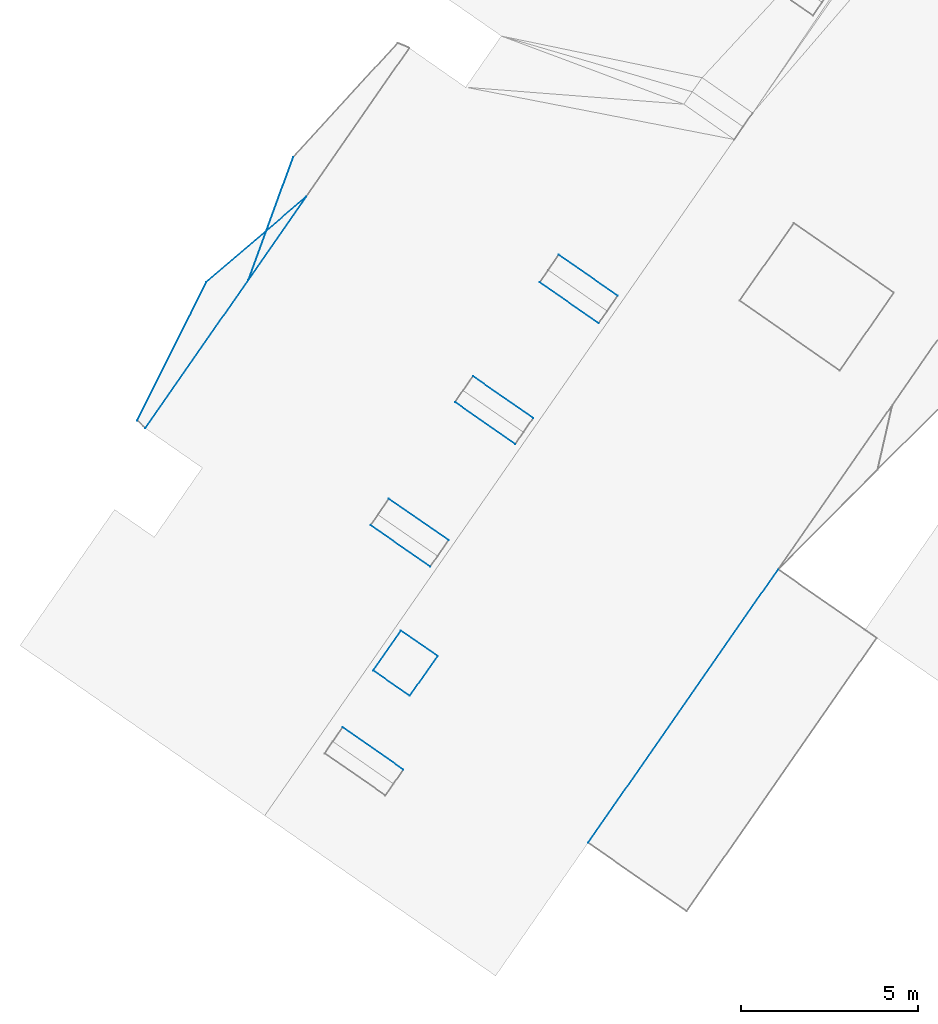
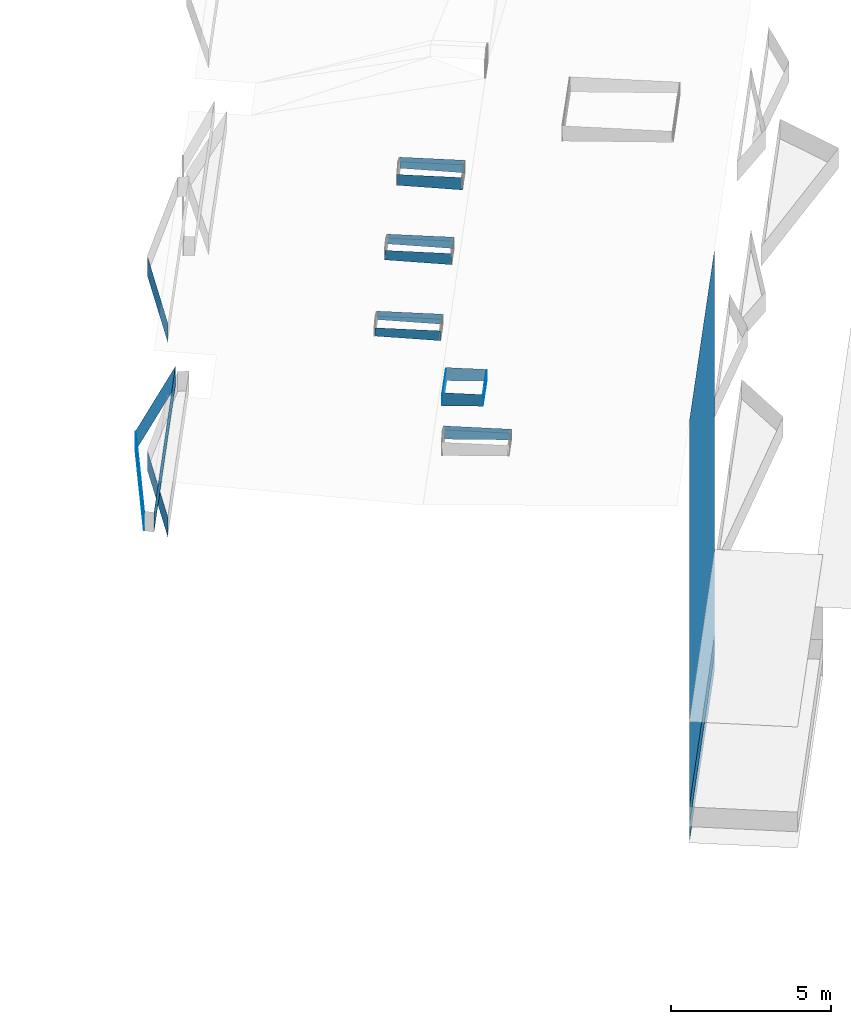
# Not in any storey, part 38 of 136: 24 walls.
"""IFC4 building model written with IfcOpenShell, lengths in metres."""

import ifcopenshell
import ifcopenshell.guid

model = None  # the IFC model being written
_history = None  # IfcOwnerHistory: only IFC2X3 demands one
_inside = {}  # id of a spatial element -> (the spatial element, [elements in it])
_under = {}  # id of a project, library or spatial element -> (it, [spatial elements below it])
_declared = {}  # id of a project -> (the project, [libraries it declares])
_typed = {}  # id of a type object -> (the type object, [elements of that type])
_made_of = {}  # id of a material, layer set ... -> (it, [elements and type objects made of it])


def new_model(schema):
    """Start an empty IFC model of exactly this schema.

    Asked for "IFC4X3", IfcOpenShell would pick the latest addendum, in which some entities
    have other attributes; the version numbers below select the first issue.
    IFC2X3 requires an IfcOwnerHistory on every rooted entity: one is made here for all.
    """
    global model, _history
    if schema == "IFC4X3":
        model = ifcopenshell.file(schema_version=(4, 3, 0, 0))
    else:
        model = ifcopenshell.file(schema=schema)
    _inside.clear()
    _under.clear()
    _declared.clear()
    _typed.clear()
    _made_of.clear()
    _history = None
    if model.schema == "IFC2X3":
        org = make("IfcOrganization", Name="unknown")
        user = make(
            "IfcPersonAndOrganization",
            ThePerson=make("IfcPerson", FamilyName="unknown"),
            TheOrganization=org,
        )
        app = make(
            "IfcApplication",
            ApplicationDeveloper=org,
            Version="unknown",
            ApplicationFullName="unknown",
            ApplicationIdentifier="unknown",
        )
        _history = make(
            "IfcOwnerHistory",
            OwningUser=user,
            OwningApplication=app,
            ChangeAction="ADDED",
            CreationDate=0,
        )
    return model


def make(cls, **values):
    """One entity of the class cls with the attributes given. An attribute that is None is left unset."""
    return model.create_entity(
        cls, **{name: value for name, value in values.items() if value is not None}
    )


def entity(cls, *values):
    """Any entity or typed value of the class cls, its attributes in the order of the schema. None: left unset."""
    e = model.create_entity(cls)
    for i, value in enumerate(values):
        if value is not None:
            e[i] = value
    return e


def rooted(cls, **values):
    """An entity with a GlobalId (a new one), such as an element, a storey or a relation."""
    return make(cls, GlobalId=ifcopenshell.guid.new(), OwnerHistory=_history, **values)


def si_unit(unit_type, name, prefix=None):
    """IfcSIUnit, for example si_unit("LENGTHUNIT", "METRE", prefix="MILLI")."""
    return make("IfcSIUnit", UnitType=unit_type, Prefix=prefix, Name=name)


def converted_unit(unit_type, name, factor, base, dimensions=None, offset=None):
    """IfcConversionBasedUnit, such as the inch: factor (a typed value) times the base unit."""
    return make(
        "IfcConversionBasedUnit"
        if offset is None
        else "IfcConversionBasedUnitWithOffset",
        ConversionOffset=offset,
        Dimensions=None
        if dimensions is None
        else entity("IfcDimensionalExponents", *dimensions),
        UnitType=unit_type,
        Name=name,
        ConversionFactor=make(
            "IfcMeasureWithUnit", ValueComponent=factor, UnitComponent=base
        ),
    )


def assignment(units):
    """IfcUnitAssignment: the units of a project."""
    return None if units is None else make("IfcUnitAssignment", Units=units)


def point(xyz):
    """IfcCartesianPoint."""
    return None if xyz is None else make("IfcCartesianPoint", Coordinates=xyz)


def direction(xyz):
    """IfcDirection."""
    return None if xyz is None else make("IfcDirection", DirectionRatios=xyz)


def frame(location, z_axis=None, x_axis=None):
    """IfcAxis2Placement3D, a coordinate frame: its origin and axes. An axis left out is left unset."""
    return make(
        "IfcAxis2Placement3D",
        Location=point(location),
        Axis=direction(z_axis),
        RefDirection=direction(x_axis),
    )


def origin():
    """The frame at (0, 0, 0) with its axes left unset."""
    return frame((0.0, 0.0, 0.0))


def place(relative_to, where):
    """IfcLocalPlacement: puts the frame where relative to a parent placement (None: the world)."""
    return make(
        "IfcLocalPlacement", PlacementRelTo=relative_to, RelativePlacement=where
    )


def context(
    kind, dimensions, precision=None, world=None, true_north=None, identifier=None
):
    """IfcGeometricRepresentationContext, for example the 3D "Model" context."""
    return make(
        "IfcGeometricRepresentationContext",
        ContextIdentifier=identifier,
        ContextType=kind,
        CoordinateSpaceDimension=dimensions,
        Precision=precision,
        WorldCoordinateSystem=world,
        TrueNorth=true_north,
    )


def subcontext(parent, identifier, kind, view, scale=None):
    """IfcGeometricRepresentationSubContext, for example "Body" below "Model"."""
    return make(
        "IfcGeometricRepresentationSubContext",
        ContextIdentifier=identifier,
        ContextType=kind,
        ParentContext=parent,
        TargetScale=scale,
        TargetView=view,
    )


def project(units=None, contexts=None):
    """IfcProject with its units and contexts."""
    return rooted(
        "IfcProject",
        Name="project",
        RepresentationContexts=contexts,
        UnitsInContext=assignment(units),
    )


def spatial(cls, under=None, at=None, **own):
    """A site, building, storey or space (cls), placed at a placement, below another one or the project."""
    s = rooted(cls, ObjectPlacement=at, **own)
    if under is not None:
        _under.setdefault(under.id(), (under, []))[1].append(s)
    return s


def faces_of(points, faces, orient=None, outer=None):
    """IfcFace entities. A face is a list of loops; a loop is a list of indices into points, from 0.

    orient and outer hold one flag for each loop. By default every Orientation is true, the
    first loop of a face is its IfcFaceOuterBound and the others are IfcFaceBound.
    """
    made = []
    for i, loops in enumerate(faces):
        bounds = []
        for j, loop in enumerate(loops):
            is_outer = j == 0 if outer is None else outer[i][j]
            bounds.append(
                make(
                    "IfcFaceOuterBound" if is_outer else "IfcFaceBound",
                    Bound=make("IfcPolyLoop", Polygon=[points[k] for k in loop]),
                    Orientation=True if orient is None else orient[i][j],
                )
            )
        made.append(make("IfcFace", Bounds=bounds))
    return made


def face_set(faces, orient=None, outer=None):
    """The faces of one IfcConnectedFaceSet. surface_model builds it on its shared points."""
    return ("IfcConnectedFaceSet", faces, orient, outer)


def surface_model(cls, points, shells):
    """IfcFaceBasedSurfaceModel or IfcShellBasedSurfaceModel (cls): surfaces that need not close."""
    shared = [point(p) for p in points]
    made = [make(c, CfsFaces=faces_of(shared, fs, o, b)) for c, fs, o, b in shells]
    if cls == "IfcFaceBasedSurfaceModel":
        return make(cls, FbsmFaces=made)
    return make(cls, SbsmBoundary=made)


def shape(context_of_items, identifier, shape_type, items):
    """IfcShapeRepresentation: the items that make up one representation, for example the "Body"."""
    return make(
        "IfcShapeRepresentation",
        ContextOfItems=context_of_items,
        RepresentationIdentifier=identifier,
        RepresentationType=shape_type,
        Items=items,
    )


def made_of(thing, what):
    """Note that an element or type object is made of a material, layer set ...; save() writes the relation."""
    if what is not None:
        _made_of.setdefault(what.id(), (what, []))[1].append(thing)
    return thing


def element(
    cls,
    number,
    at=None,
    inside=None,
    cuts=None,
    type_object=None,
    material=None,
    context=None,
    identifier="Body",
    shape_type=None,
    held_by="IfcProductDefinitionShape",
    body=None,
    shapes=None,
    **own,
):
    """One element of the class cls, such as IfcWall. Its Tag is "e" and its number.

    at: its placement. inside: the storey or other place that contains it. cuts: it is an
    opening in that element (IfcRelVoidsElement). A single representation is given by context,
    identifier, shape_type and body (its items); several are given by shapes. held_by: the class
    of the entity that holds the representations. save() writes the other relations.
    """
    e = rooted(cls, Tag="e%d" % number, ObjectPlacement=at, **own)
    if body is not None:
        shapes = [shape(context, identifier, shape_type, body)]
    if shapes is not None:
        e.Representation = make(held_by, Representations=shapes)
    if inside is not None:
        _inside.setdefault(inside.id(), (inside, []))[1].append(e)
    if cuts is not None:
        rooted(
            "IfcRelVoidsElement", RelatingBuildingElement=cuts, RelatedOpeningElement=e
        )
    if type_object is not None:
        _typed.setdefault(type_object.id(), (type_object, []))[1].append(e)
    return made_of(e, material)


def aggregate(whole, parts):
    """IfcRelAggregates: a whole, such as a stair, and the parts it consists of."""
    return rooted("IfcRelAggregates", RelatingObject=whole, RelatedObjects=parts)


def save(model, path):
    """Write the relations noted so far, then the file.

    IfcRelAggregates (storeys below a building ...), IfcRelContainedInSpatialStructure (elements
    in a storey), IfcRelDefinesByType, IfcRelAssociatesMaterial and IfcRelDeclares: one each for
    every whole, place, type object, material and project.
    """
    for whole, parts in _under.values():
        aggregate(whole, parts)
    for where, things in _inside.values():
        rooted(
            "IfcRelContainedInSpatialStructure",
            RelatedElements=things,
            RelatingStructure=where,
        )
    for kind, things in _typed.values():
        rooted("IfcRelDefinesByType", RelatedObjects=things, RelatingType=kind)
    for what, things in _made_of.values():
        rooted("IfcRelAssociatesMaterial", RelatedObjects=things, RelatingMaterial=what)
    for by, libraries in _declared.values():
        rooted("IfcRelDeclares", RelatingContext=by, RelatedDefinitions=libraries)
    model.write(path)


model = new_model("IFC4")

# Units and contexts
model_context = context("Model", 3, precision=1e-05, world=origin())
body_context = subcontext(model_context, "Body", "Model", "MODEL_VIEW")
ifc_project = project(units=[converted_unit("PLANEANGLEUNIT", "DEGREE", entity("IfcRatioMeasure", 0.0174532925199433), si_unit("PLANEANGLEUNIT", "RADIAN"), dimensions=[0, 0, 0, 0, 0, 0, 0]), si_unit("AREAUNIT", "SQUARE_METRE"), si_unit("LENGTHUNIT", "METRE")], contexts=[model_context])

# Site, building
site_placement = place(None, origin())
site = spatial("IfcSite", under=ifc_project, at=site_placement, Name="_site")
building_placement = place(site_placement, origin())
building = spatial("IfcBuilding", under=site, at=building_placement, Name="_building")

# Walls
wall_1_placement = place(building_placement, origin())
element("IfcWall", 1, at=wall_1_placement, inside=building, Name="Wall", PredefinedType="NOTDEFINED", context=body_context, shape_type="SurfaceModel", body=[
    surface_model("IfcFaceBasedSurfaceModel", [(-44.91, 54.88, 38.44), (-39.53, 62.62, 38.44), (-39.53, 62.62, 39.19), (-44.91, 54.88, 39.19)], [face_set([[[0, 1, 2, 3]]])]),
])
wall_2_placement = place(building_placement, origin())
element("IfcWall", 2, at=wall_2_placement, inside=building, Name="Wall", PredefinedType="NOTDEFINED", context=body_context, shape_type="SurfaceModel", body=[
    surface_model("IfcFaceBasedSurfaceModel", [(-55.72, 70.76, 46.95), (-52.89, 73.18, 46.95), (-52.89, 73.18, 47.7), (-55.72, 70.76, 47.7)], [face_set([[[0, 1, 2, 3]]])]),
])
wall_3_placement = place(building_placement, origin())
element("IfcWall", 3, at=wall_3_placement, inside=building, Name="Wall", PredefinedType="NOTDEFINED", context=body_context, shape_type="SurfaceModel", body=[
    surface_model("IfcFaceBasedSurfaceModel", [(-57.68, 66.84, 46.95), (-55.72, 70.76, 46.95), (-55.72, 70.76, 47.7), (-57.68, 66.84, 47.7)], [face_set([[[0, 1, 2, 3]]])]),
])
wall_4_placement = place(building_placement, origin())
element("IfcWall", 4, at=wall_4_placement, inside=building, Name="Wall", PredefinedType="NOTDEFINED", context=body_context, shape_type="SurfaceModel", body=[
    surface_model("IfcFaceBasedSurfaceModel", [(-54.53, 70.82, 50.62), (-53.26, 74.3, 50.62), (-53.26, 74.3, 51.37), (-54.53, 70.82, 51.37)], [face_set([[[0, 1, 2, 3]]])]),
])
wall_5_placement = place(building_placement, origin())
element("IfcWall", 5, at=wall_5_placement, inside=building, Name="Wall", PredefinedType="NOTDEFINED", context=body_context, shape_type="SurfaceModel", body=[
    surface_model("IfcFaceBasedSurfaceModel", [(-50.55, 64.62, 54.18), (-48.86, 63.45, 54.18), (-48.86, 63.45, 53.793), (-50.55, 64.62, 53.853)], [face_set([[[0, 1, 2, 3]]])]),
])
wall_6_placement = place(building_placement, origin())
element("IfcWall", 6, at=wall_6_placement, inside=building, Name="Wall", PredefinedType="NOTDEFINED", context=body_context, shape_type="SurfaceModel", body=[
    surface_model("IfcFaceBasedSurfaceModel", [(-49.38, 62.7, 54.18), (-51.07, 63.87, 54.18), (-51.07, 63.87, 53.863), (-49.38, 62.7, 53.803)], [face_set([[[0, 1, 2, 3]]])]),
])
wall_7_placement = place(building_placement, origin())
element("IfcWall", 7, at=wall_7_placement, inside=building, Name="Wall", PredefinedType="NOTDEFINED", context=body_context, shape_type="SurfaceModel", body=[
    surface_model("IfcFaceBasedSurfaceModel", [(-45.74, 71.53, 54.18), (-44.07, 70.37, 54.18), (-44.07, 70.37, 53.697), (-45.74, 71.53, 53.757)], [face_set([[[0, 1, 2, 3]]])]),
])
wall_8_placement = place(building_placement, origin())
element("IfcWall", 8, at=wall_8_placement, inside=building, Name="Wall", PredefinedType="NOTDEFINED", context=body_context, shape_type="SurfaceModel", body=[
    surface_model("IfcFaceBasedSurfaceModel", [(-44.61, 69.59, 54.18), (-46.28, 70.75, 54.18), (-46.28, 70.75, 53.767), (-44.61, 69.59, 53.708)], [face_set([[[0, 1, 2, 3]]])]),
])
wall_9_placement = place(building_placement, origin())
element("IfcWall", 9, at=wall_9_placement, inside=building, Name="Wall", PredefinedType="NOTDEFINED", context=body_context, shape_type="SurfaceModel", body=[
    surface_model("IfcFaceBasedSurfaceModel", [(-54.53, 70.82, 50.62), (-53.26, 74.3, 50.62), (-53.26, 74.3, 51.37), (-54.53, 70.82, 51.37)], [face_set([[[0, 1, 2, 3]]])]),
])
wall_10_placement = place(building_placement, origin())
element("IfcWall", 10, at=wall_10_placement, inside=building, Name="Wall", PredefinedType="NOTDEFINED", context=body_context, shape_type="SurfaceModel", body=[
    surface_model("IfcFaceBasedSurfaceModel", [(-52.89, 73.18, 46.95), (-57.45, 66.62, 46.95), (-57.45, 66.62, 47.7), (-52.89, 73.18, 47.7)], [face_set([[[0, 1, 2, 3]]])]),
])
wall_11_placement = place(building_placement, origin())
element("IfcWall", 11, at=wall_11_placement, inside=building, Name="Wall", PredefinedType="NOTDEFINED", context=body_context, shape_type="SurfaceModel", body=[
    surface_model("IfcFaceBasedSurfaceModel", [(-46.97, 66.17, 54.18), (-48.68, 67.36, 54.18), (-48.68, 67.36, 53.816), (-46.97, 66.17, 53.755)], [face_set([[[0, 1, 2, 3]]])]),
])
wall_12_placement = place(building_placement, origin())
element("IfcWall", 12, at=wall_12_placement, inside=building, Name="Wall", PredefinedType="NOTDEFINED", context=body_context, shape_type="SurfaceModel", body=[
    surface_model("IfcFaceBasedSurfaceModel", [(-51.86, 58.15, 54.18), (-50.14, 56.95, 54.18), (-50.14, 56.95, 53.771), (-51.86, 58.15, 53.675)], [face_set([[[0, 1, 2, 3]]])]),
])
wall_13_placement = place(building_placement, origin())
element("IfcWall", 13, at=wall_13_placement, inside=building, Name="Wall", PredefinedType="NOTDEFINED", context=body_context, shape_type="SurfaceModel", body=[
    surface_model("IfcFaceBasedSurfaceModel", [(-52.89, 73.18, 46.95), (-57.45, 66.62, 46.95), (-57.45, 66.62, 47.7), (-52.89, 73.18, 47.7)], [face_set([[[0, 1, 2, 3]]])]),
])
wall_14_placement = place(building_placement, origin())
element("IfcWall", 14, at=wall_14_placement, inside=building, Name="Wall", PredefinedType="NOTDEFINED", context=body_context, shape_type="SurfaceModel", body=[
    surface_model("IfcFaceBasedSurfaceModel", [(-55.72, 70.76, 46.95), (-52.89, 73.18, 46.95), (-52.89, 73.18, 47.7), (-55.72, 70.76, 47.7)], [face_set([[[0, 1, 2, 3]]])]),
])
wall_15_placement = place(building_placement, origin())
element("IfcWall", 15, at=wall_15_placement, inside=building, Name="Wall", PredefinedType="NOTDEFINED", context=body_context, shape_type="SurfaceModel", body=[
    surface_model("IfcFaceBasedSurfaceModel", [(-57.68, 66.84, 46.95), (-55.72, 70.76, 46.95), (-55.72, 70.76, 47.7), (-57.68, 66.84, 47.7)], [face_set([[[0, 1, 2, 3]]])]),
])
wall_16_placement = place(building_placement, origin())
element("IfcWall", 16, at=wall_16_placement, inside=building, Name="Wall", PredefinedType="NOTDEFINED", context=body_context, shape_type="SurfaceModel", body=[
    surface_model("IfcFaceBasedSurfaceModel", [(-48.17, 68.09, 54.18), (-46.46, 66.91, 54.18), (-46.46, 66.91, 53.745), (-48.17, 68.09, 53.805)], [face_set([[[0, 1, 2, 3]]])]),
])
wall_17_placement = place(building_placement, origin())
element("IfcWall", 17, at=wall_17_placement, inside=building, Name="Wall", PredefinedType="NOTDEFINED", context=body_context, shape_type="SurfaceModel", body=[
    surface_model("IfcFaceBasedSurfaceModel", [(-49.17, 60.17, 54.17), (-49.96, 59.04, 54.17), (-49.96, 59.04, 53.724), (-49.17, 60.17, 53.724)], [face_set([[[0, 1, 2, 3]]])]),
])
wall_18_placement = place(building_placement, origin())
element("IfcWall", 18, at=wall_18_placement, inside=building, Name="Wall", PredefinedType="NOTDEFINED", context=body_context, shape_type="SurfaceModel", body=[
    surface_model("IfcFaceBasedSurfaceModel", [(-51.0, 59.76, 54.17), (-50.21, 60.89, 54.17), (-50.21, 60.89, 53.666), (-51.0, 59.76, 53.666)], [face_set([[[0, 1, 2, 3]]])]),
])
wall_19_placement = place(building_placement, origin())
element("IfcWall", 19, at=wall_19_placement, inside=building, Name="Wall", PredefinedType="NOTDEFINED", context=body_context, shape_type="SurfaceModel", body=[
    surface_model("IfcFaceBasedSurfaceModel", [(-49.96, 59.04, 54.17), (-51.0, 59.76, 54.17), (-51.0, 59.76, 53.666), (-49.96, 59.04, 53.724)], [face_set([[[0, 1, 2, 3]]])]),
])
wall_20_placement = place(building_placement, origin())
element("IfcWall", 20, at=wall_20_placement, inside=building, Name="Wall", PredefinedType="NOTDEFINED", context=body_context, shape_type="SurfaceModel", body=[
    surface_model("IfcFaceBasedSurfaceModel", [(-39.53, 62.62, 53.88), (-44.91, 54.88, 53.88), (-44.91, 54.88, 37.82), (-39.53, 62.62, 37.82)], [face_set([[[0, 1, 2, 3]]])]),
])
for number, where, name in (
    (21, (0.0, 0.0, 0.0), "Wall"),
    (22, (0.0, 0.0, 0.0), "Wall"),
):
    element("IfcWall", number, at=place(building_placement, frame(where)), inside=building, Name=name, PredefinedType="NOTDEFINED", context=body_context, shape_type="SurfaceModel", body=[
        surface_model("IfcFaceBasedSurfaceModel", [(-54.53, 70.82, 43.2), (-53.26, 74.3, 43.2), (-53.26, 74.3, 43.95), (-54.53, 70.82, 43.95)], [face_set([[[0, 1, 2, 3]]])]),
    ])
wall_21_placement = place(building_placement, origin())
element("IfcWall", 23, at=wall_21_placement, inside=building, Name="Wall", PredefinedType="NOTDEFINED", context=body_context, shape_type="SurfaceModel", body=[
    surface_model("IfcFaceBasedSurfaceModel", [(-50.21, 60.89, 54.17), (-49.17, 60.17, 54.17), (-49.17, 60.17, 53.724), (-50.21, 60.89, 53.666)], [face_set([[[0, 1, 2, 3]]])]),
])
wall_22_placement = place(building_placement, origin())
element("IfcWall", 24, at=wall_22_placement, inside=building, Name="Wall", PredefinedType="NOTDEFINED", context=body_context, shape_type="SurfaceModel", body=[
    surface_model("IfcFaceBasedSurfaceModel", [(-44.91, 54.88, 38.44), (-39.53, 62.62, 38.44), (-39.53, 62.62, 39.19), (-44.91, 54.88, 39.19)], [face_set([[[0, 1, 2, 3]]])]),
])

save(model, "model.ifc")
